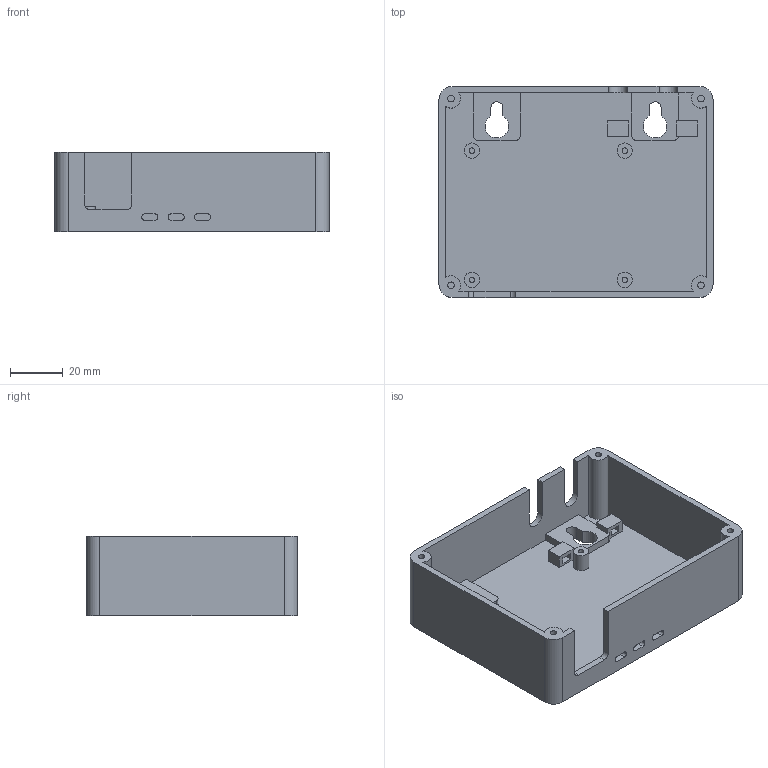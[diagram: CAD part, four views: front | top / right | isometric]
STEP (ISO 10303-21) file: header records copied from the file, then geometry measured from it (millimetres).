
FILE_DESCRIPTION(('Open CASCADE Model'),'2;1');
FILE_NAME('Open CASCADE Shape Model','2026-10-09T07:06:44',('Author'),( 'Open CASCADE'),'Open CASCADE STEP processor 7.8','Open CASCADE 7.8' ,'Unknown');
FILE_SCHEMA(('AUTOMOTIVE_DESIGN { 1 0 10303 214 1 1 1 1 }'));
Length unit declared in the file: millimetre
Products named in the file (1): Open CASCADE STEP translator 7.8 1
Bounding box: 104 x 80 x 30 mm (x, y, z)
Volume: 46506.9 mm3; surface area: 37577 mm2
Topology: 1 solids, 1 shells, 118 faces, 309 edges, 206 vertices
Faces by surface type: plane 74, cylinder 44
Full cylindrical faces by diameter (mm): 2.1 x4, 2.5 x4, 5.8 x4
Entity records: 7573 total; most frequent: CARTESIAN_POINT 1645, DIRECTION 1010, ORIENTED_EDGE 618, PCURVE 618, DEFINITIONAL_REPRESENTATION 618, LINE 538, VECTOR 538, EDGE_CURVE 309
